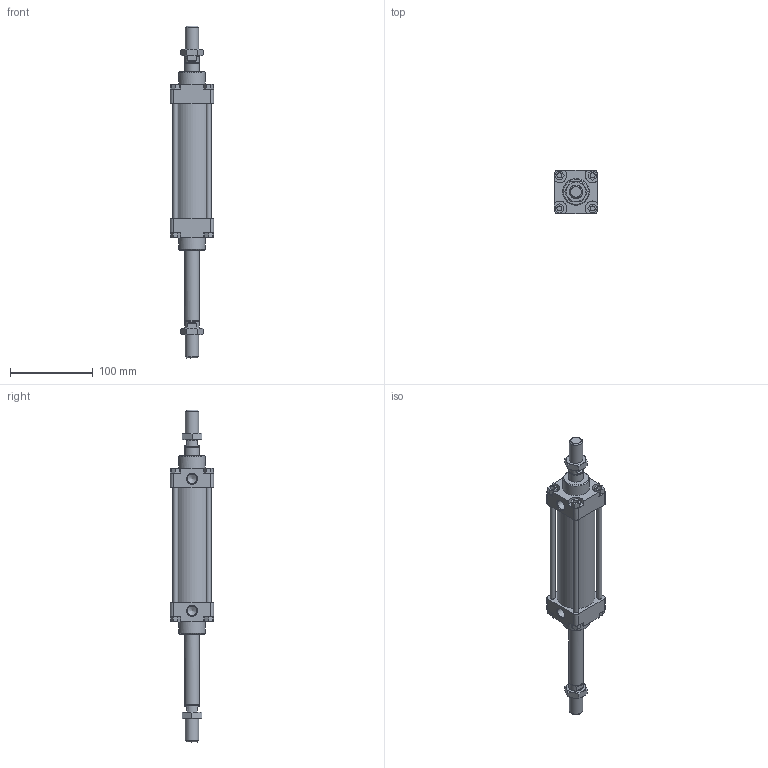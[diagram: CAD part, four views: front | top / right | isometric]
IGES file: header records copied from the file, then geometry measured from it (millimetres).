
Global section: file name: 1303_040_0075_02A; native system: Autodesk Inventor 2014; preprocessor: unknown; author: A. Manieri; date: 20161123.144204; units: millimetre
Bounding box: 52 x 52 x 400 mm (x, y, z)
Volume: 343207.2 mm3; surface area: 112700.8 mm2
Topology: 10 solids, 10 shells, 189 faces, 471 edges, 314 vertices
Faces by surface type: bspline 189
